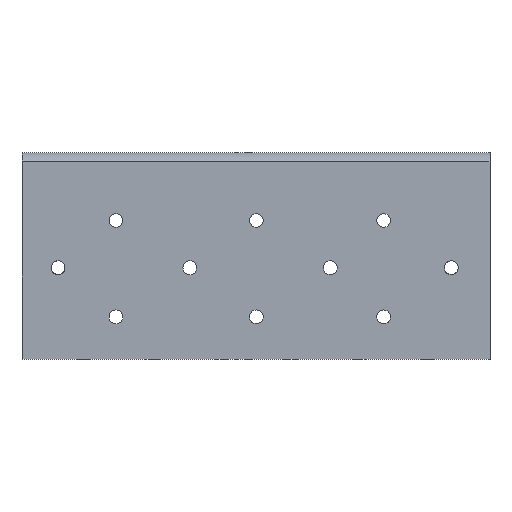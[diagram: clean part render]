
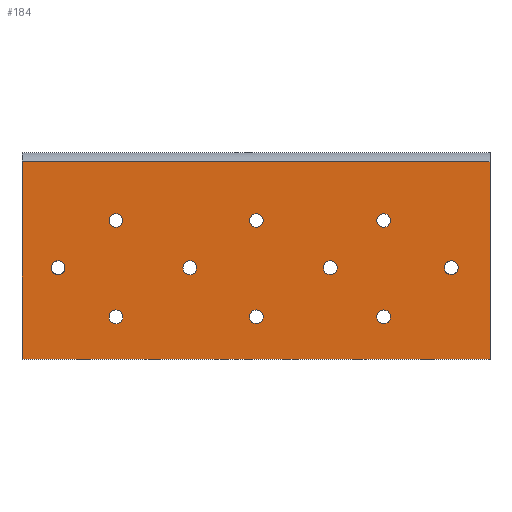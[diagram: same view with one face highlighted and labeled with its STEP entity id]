
A CAD part, front view. The second image highlights one B-rep face of the part: STEP entity #184.
In plain terms, the highlighted planar face has unit normal (0, -1, 0).
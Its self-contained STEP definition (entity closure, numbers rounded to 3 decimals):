
#184=ADVANCED_FACE('',(#695,#697,#699,#701,#703,#705,#707,#709,#711,#713,#715),#717,
.F.);
#695=FACE_BOUND('',#696,.T.);
#696=EDGE_LOOP('',(#1126,#1127,#1128,#1129));
#697=FACE_BOUND('',#698,.T.);
#698=EDGE_LOOP('',(#1130));
#699=FACE_BOUND('',#700,.T.);
#700=EDGE_LOOP('',(#1131));
#701=FACE_BOUND('',#702,.T.);
#702=EDGE_LOOP('',(#1132));
#703=FACE_BOUND('',#704,.T.);
#704=EDGE_LOOP('',(#1133));
#705=FACE_BOUND('',#706,.T.);
#706=EDGE_LOOP('',(#1134));
#707=FACE_BOUND('',#708,.T.);
#708=EDGE_LOOP('',(#1135));
#709=FACE_BOUND('',#710,.T.);
#710=EDGE_LOOP('',(#1136));
#711=FACE_BOUND('',#712,.T.);
#712=EDGE_LOOP('',(#1137));
#713=FACE_BOUND('',#714,.T.);
#714=EDGE_LOOP('',(#1138));
#715=FACE_BOUND('',#716,.T.);
#716=EDGE_LOOP('',(#1139));
#717=PLANE('',#718);
#718=AXIS2_PLACEMENT_3D('',#719,#720,#721);
#719=CARTESIAN_POINT('',(0.,-0.7,40.));
#720=DIRECTION('',(-0.,1.,0.));
#721=DIRECTION('',(1.,0.,0.));
#1126=ORIENTED_EDGE('',*,*,#1375,.F.);
#1127=ORIENTED_EDGE('',*,*,#1344,.F.);
#1128=ORIENTED_EDGE('',*,*,#1372,.F.);
#1129=ORIENTED_EDGE('',*,*,#1316,.F.);
#1130=ORIENTED_EDGE('',*,*,#1315,.F.);
#1131=ORIENTED_EDGE('',*,*,#1313,.F.);
#1132=ORIENTED_EDGE('',*,*,#1311,.F.);
#1133=ORIENTED_EDGE('',*,*,#1309,.F.);
#1134=ORIENTED_EDGE('',*,*,#1307,.F.);
#1135=ORIENTED_EDGE('',*,*,#1305,.F.);
#1136=ORIENTED_EDGE('',*,*,#1303,.F.);
#1137=ORIENTED_EDGE('',*,*,#1301,.F.);
#1138=ORIENTED_EDGE('',*,*,#1299,.F.);
#1139=ORIENTED_EDGE('',*,*,#1297,.F.);
#1297=EDGE_CURVE('',#1426,#1426,#1427,.F.);
#1299=EDGE_CURVE('',#1430,#1430,#1431,.F.);
#1301=EDGE_CURVE('',#1434,#1434,#1435,.F.);
#1303=EDGE_CURVE('',#1438,#1438,#1439,.F.);
#1305=EDGE_CURVE('',#1442,#1442,#1443,.F.);
#1307=EDGE_CURVE('',#1446,#1446,#1447,.F.);
#1309=EDGE_CURVE('',#1450,#1450,#1451,.F.);
#1311=EDGE_CURVE('',#1454,#1454,#1455,.F.);
#1313=EDGE_CURVE('',#1458,#1458,#1459,.F.);
#1315=EDGE_CURVE('',#1462,#1462,#1463,.F.);
#1316=EDGE_CURVE('',#1464,#1465,#1466,.T.);
#1344=EDGE_CURVE('',#1520,#1521,#1522,.F.);
#1372=EDGE_CURVE('',#1465,#1520,#1576,.F.);
#1375=EDGE_CURVE('',#1521,#1464,#1580,.F.);
#1426=VERTEX_POINT('',#1682);
#1427=CIRCLE('',#1683,1.);
#1430=VERTEX_POINT('',#1723);
#1431=CIRCLE('',#1724,1.);
#1434=VERTEX_POINT('',#1733);
#1435=CIRCLE('',#1734,1.);
#1438=VERTEX_POINT('',#1743);
#1439=CIRCLE('',#1744,1.);
#1442=VERTEX_POINT('',#1753);
#1443=CIRCLE('',#1754,1.);
#1446=VERTEX_POINT('',#1763);
#1447=CIRCLE('',#1764,1.);
#1450=VERTEX_POINT('',#1773);
#1451=CIRCLE('',#1774,1.);
#1454=VERTEX_POINT('',#1783);
#1455=CIRCLE('',#1784,1.);
#1458=VERTEX_POINT('',#1793);
#1459=CIRCLE('',#1794,1.);
#1462=VERTEX_POINT('',#1803);
#1463=CIRCLE('',#1804,1.);
#1464=VERTEX_POINT('',#1808);
#1465=VERTEX_POINT('',#1809);
#1466=LINE('',#1810,#1811);
#1520=VERTEX_POINT('',#1920);
#1521=VERTEX_POINT('',#1921);
#1522=LINE('',#1922,#1923);
#1576=LINE('',#2046,#2047);
#1580=LINE('',#2056,#2057);
#1682=CARTESIAN_POINT('',(6.241,-0.7,13.296));
#1683=AXIS2_PLACEMENT_3D('',#1684,#1685,#1686);
#1684=CARTESIAN_POINT('',(5.241,-0.7,13.296));
#1685=DIRECTION('',(-0.,1.,0.));
#1686=DIRECTION('',(1.,0.,0.));
#1723=CARTESIAN_POINT('',(63.372,-0.7,13.296));
#1724=AXIS2_PLACEMENT_3D('',#1725,#1726,#1727);
#1725=CARTESIAN_POINT('',(62.372,-0.7,13.296));
#1726=DIRECTION('',(-0.,1.,0.));
#1727=DIRECTION('',(1.,0.,0.));
#1733=CARTESIAN_POINT('',(53.539,-0.7,20.159));
#1734=AXIS2_PLACEMENT_3D('',#1735,#1736,#1737);
#1735=CARTESIAN_POINT('',(52.539,-0.7,20.159));
#1736=DIRECTION('',(-0.,1.,0.));
#1737=DIRECTION('',(1.,0.,0.));
#1743=CARTESIAN_POINT('',(35.046,-0.7,20.159));
#1744=AXIS2_PLACEMENT_3D('',#1745,#1746,#1747);
#1745=CARTESIAN_POINT('',(34.046,-0.7,20.159));
#1746=DIRECTION('',(-0.,1.,0.));
#1747=DIRECTION('',(1.,0.,0.));
#1753=CARTESIAN_POINT('',(14.645,-0.7,20.159));
#1754=AXIS2_PLACEMENT_3D('',#1755,#1756,#1757);
#1755=CARTESIAN_POINT('',(13.645,-0.7,20.159));
#1756=DIRECTION('',(-0.,1.,0.));
#1757=DIRECTION('',(1.,0.,0.));
#1763=CARTESIAN_POINT('',(53.539,-0.7,6.167));
#1764=AXIS2_PLACEMENT_3D('',#1765,#1766,#1767);
#1765=CARTESIAN_POINT('',(52.539,-0.7,6.167));
#1766=DIRECTION('',(-0.,1.,0.));
#1767=DIRECTION('',(1.,0.,0.));
#1773=CARTESIAN_POINT('',(45.789,-0.7,13.296));
#1774=AXIS2_PLACEMENT_3D('',#1775,#1776,#1777);
#1775=CARTESIAN_POINT('',(44.789,-0.7,13.296));
#1776=DIRECTION('',(-0.,1.,0.));
#1777=DIRECTION('',(1.,0.,0.));
#1783=CARTESIAN_POINT('',(35.046,-0.7,6.167));
#1784=AXIS2_PLACEMENT_3D('',#1785,#1786,#1787);
#1785=CARTESIAN_POINT('',(34.046,-0.7,6.167));
#1786=DIRECTION('',(-0.,1.,0.));
#1787=DIRECTION('',(1.,0.,0.));
#1793=CARTESIAN_POINT('',(25.387,-0.7,13.296));
#1794=AXIS2_PLACEMENT_3D('',#1795,#1796,#1797);
#1795=CARTESIAN_POINT('',(24.387,-0.7,13.296));
#1796=DIRECTION('',(-0.,1.,0.));
#1797=DIRECTION('',(1.,0.,0.));
#1803=CARTESIAN_POINT('',(14.645,-0.7,6.167));
#1804=AXIS2_PLACEMENT_3D('',#1805,#1806,#1807);
#1805=CARTESIAN_POINT('',(13.645,-0.7,6.167));
#1806=DIRECTION('',(-0.,1.,0.));
#1807=DIRECTION('',(1.,0.,0.));
#1808=CARTESIAN_POINT('',(68.,-0.7,0.));
#1809=CARTESIAN_POINT('',(0.,-0.7,0.));
#1810=CARTESIAN_POINT('',(68.,-0.7,0.));
#1811=VECTOR('',#1812,1.);
#1812=DIRECTION('',(-1.,0.,0.));
#1920=CARTESIAN_POINT('',(0.,-0.7,28.706));
#1921=CARTESIAN_POINT('',(68.,-0.7,28.706));
#1922=CARTESIAN_POINT('',(68.,-0.7,28.706));
#1923=VECTOR('',#1924,1.);
#1924=DIRECTION('',(-1.,0.,0.));
#2046=CARTESIAN_POINT('',(0.,-0.7,28.706));
#2047=VECTOR('',#2048,1.);
#2048=DIRECTION('',(0.,0.,-1.));
#2056=CARTESIAN_POINT('',(68.,-0.7,0.));
#2057=VECTOR('',#2058,1.);
#2058=DIRECTION('',(0.,0.,1.));
